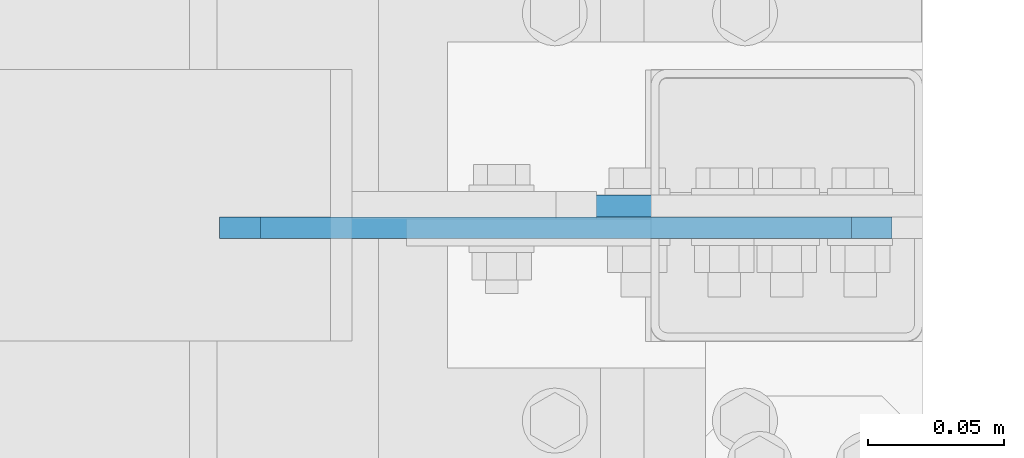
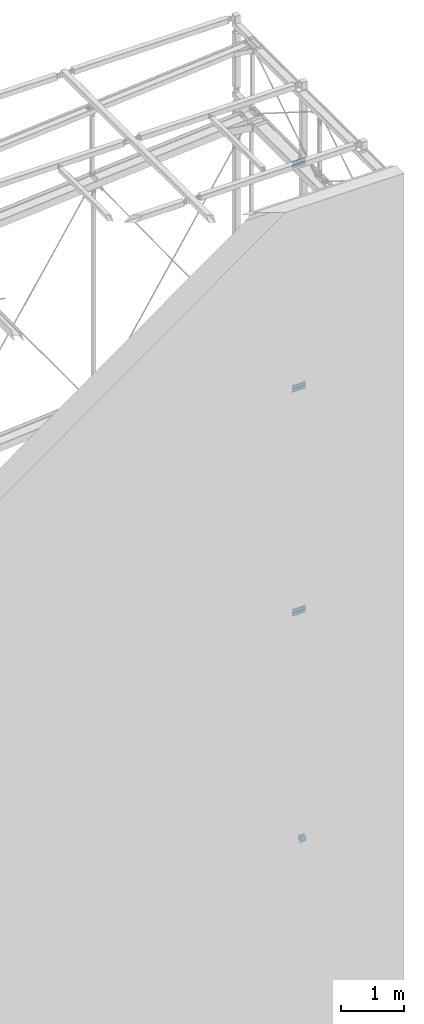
# One storey, part 177 of 271: 7 plates, 4 elements without a shape of their own.
"""IFC2X3 building model written with IfcOpenShell, lengths in millimetres."""

import ifcopenshell
import ifcopenshell.guid

model = None  # the IFC model being written
_history = None  # IfcOwnerHistory: only IFC2X3 demands one
_inside = {}  # id of a spatial element -> (the spatial element, [elements in it])
_under = {}  # id of a project, library or spatial element -> (it, [spatial elements below it])
_declared = {}  # id of a project -> (the project, [libraries it declares])
_typed = {}  # id of a type object -> (the type object, [elements of that type])
_made_of = {}  # id of a material, layer set ... -> (it, [elements and type objects made of it])


def new_model(schema):
    """Start an empty IFC model of exactly this schema.

    Asked for "IFC4X3", IfcOpenShell would pick the latest addendum, in which some entities
    have other attributes; the version numbers below select the first issue.
    IFC2X3 requires an IfcOwnerHistory on every rooted entity: one is made here for all.
    """
    global model, _history
    if schema == "IFC4X3":
        model = ifcopenshell.file(schema_version=(4, 3, 0, 0))
    else:
        model = ifcopenshell.file(schema=schema)
    _inside.clear()
    _under.clear()
    _declared.clear()
    _typed.clear()
    _made_of.clear()
    _history = None
    if model.schema == "IFC2X3":
        org = make("IfcOrganization", Name="unknown")
        user = make(
            "IfcPersonAndOrganization",
            ThePerson=make("IfcPerson", FamilyName="unknown"),
            TheOrganization=org,
        )
        app = make(
            "IfcApplication",
            ApplicationDeveloper=org,
            Version="unknown",
            ApplicationFullName="unknown",
            ApplicationIdentifier="unknown",
        )
        _history = make(
            "IfcOwnerHistory",
            OwningUser=user,
            OwningApplication=app,
            ChangeAction="ADDED",
            CreationDate=0,
        )
    return model


def make(cls, **values):
    """One entity of the class cls with the attributes given. An attribute that is None is left unset."""
    return model.create_entity(
        cls, **{name: value for name, value in values.items() if value is not None}
    )


def rooted(cls, **values):
    """An entity with a GlobalId (a new one), such as an element, a storey or a relation."""
    return make(cls, GlobalId=ifcopenshell.guid.new(), OwnerHistory=_history, **values)


def si_unit(unit_type, name, prefix=None):
    """IfcSIUnit, for example si_unit("LENGTHUNIT", "METRE", prefix="MILLI")."""
    return make("IfcSIUnit", UnitType=unit_type, Prefix=prefix, Name=name)


def assignment(units):
    """IfcUnitAssignment: the units of a project."""
    return None if units is None else make("IfcUnitAssignment", Units=units)


def point(xyz):
    """IfcCartesianPoint."""
    return None if xyz is None else make("IfcCartesianPoint", Coordinates=xyz)


def direction(xyz):
    """IfcDirection."""
    return None if xyz is None else make("IfcDirection", DirectionRatios=xyz)


def frame(location, z_axis=None, x_axis=None):
    """IfcAxis2Placement3D, a coordinate frame: its origin and axes. An axis left out is left unset."""
    return make(
        "IfcAxis2Placement3D",
        Location=point(location),
        Axis=direction(z_axis),
        RefDirection=direction(x_axis),
    )


def origin_with_axes():
    """The frame at (0, 0, 0) with the z axis (0, 0, 1) and the x axis (1, 0, 0) written out."""
    return frame((0.0, 0.0, 0.0), z_axis=(0.0, 0.0, 1.0), x_axis=(1.0, 0.0, 0.0))


def place(relative_to, where):
    """IfcLocalPlacement: puts the frame where relative to a parent placement (None: the world)."""
    return make(
        "IfcLocalPlacement", PlacementRelTo=relative_to, RelativePlacement=where
    )


def context(
    kind, dimensions, precision=None, world=None, true_north=None, identifier=None
):
    """IfcGeometricRepresentationContext, for example the 3D "Model" context."""
    return make(
        "IfcGeometricRepresentationContext",
        ContextIdentifier=identifier,
        ContextType=kind,
        CoordinateSpaceDimension=dimensions,
        Precision=precision,
        WorldCoordinateSystem=world,
        TrueNorth=true_north,
    )


def subcontext(parent, identifier, kind, view, scale=None):
    """IfcGeometricRepresentationSubContext, for example "Body" below "Model"."""
    return make(
        "IfcGeometricRepresentationSubContext",
        ContextIdentifier=identifier,
        ContextType=kind,
        ParentContext=parent,
        TargetScale=scale,
        TargetView=view,
    )


def project(units=None, contexts=None):
    """IfcProject with its units and contexts."""
    return rooted(
        "IfcProject",
        Name="project",
        RepresentationContexts=contexts,
        UnitsInContext=assignment(units),
    )


def spatial(cls, under=None, at=None, **own):
    """A site, building, storey or space (cls), placed at a placement, below another one or the project."""
    s = rooted(cls, ObjectPlacement=at, **own)
    if under is not None:
        _under.setdefault(under.id(), (under, []))[1].append(s)
    return s


def polyline(points):
    """IfcPolyline through the points."""
    return make("IfcPolyline", Points=[point(p) for p in points])


def outline(outer, holes=None, kind="AREA"):
    """IfcArbitraryClosedProfileDef: a profile drawn as a closed curve; with holes, ...WithVoids."""
    if holes is None:
        return make("IfcArbitraryClosedProfileDef", ProfileType=kind, OuterCurve=outer)
    return make(
        "IfcArbitraryProfileDefWithVoids",
        ProfileType=kind,
        OuterCurve=outer,
        InnerCurves=holes,
    )


def extrude(swept, where, along, depth):
    """IfcExtrudedAreaSolid: the profile swept, set in the frame where, extruded along a direction by depth."""
    return make(
        "IfcExtrudedAreaSolid",
        SweptArea=swept,
        Position=where,
        ExtrudedDirection=direction(along),
        Depth=depth,
    )


def shape(context_of_items, identifier, shape_type, items):
    """IfcShapeRepresentation: the items that make up one representation, for example the "Body"."""
    return make(
        "IfcShapeRepresentation",
        ContextOfItems=context_of_items,
        RepresentationIdentifier=identifier,
        RepresentationType=shape_type,
        Items=items,
    )


def material(Name=None, Category=None):
    """IfcMaterial."""
    return make("IfcMaterial", Name=Name, Category=Category)


def made_of(thing, what):
    """Note that an element or type object is made of a material, layer set ...; save() writes the relation."""
    if what is not None:
        _made_of.setdefault(what.id(), (what, []))[1].append(thing)
    return thing


def type_object(cls, material=None, **own):
    """A type object (cls), such as IfcWallType, which elements share."""
    return made_of(rooted(cls, **own), material)


def element(
    cls,
    number,
    at=None,
    inside=None,
    cuts=None,
    type_object=None,
    material=None,
    context=None,
    identifier="Body",
    shape_type=None,
    held_by="IfcProductDefinitionShape",
    body=None,
    shapes=None,
    **own,
):
    """One element of the class cls, such as IfcWall. Its Tag is "e" and its number.

    at: its placement. inside: the storey or other place that contains it. cuts: it is an
    opening in that element (IfcRelVoidsElement). A single representation is given by context,
    identifier, shape_type and body (its items); several are given by shapes. held_by: the class
    of the entity that holds the representations. save() writes the other relations.
    """
    e = rooted(cls, Tag="e%d" % number, ObjectPlacement=at, **own)
    if body is not None:
        shapes = [shape(context, identifier, shape_type, body)]
    if shapes is not None:
        e.Representation = make(held_by, Representations=shapes)
    if inside is not None:
        _inside.setdefault(inside.id(), (inside, []))[1].append(e)
    if cuts is not None:
        rooted(
            "IfcRelVoidsElement", RelatingBuildingElement=cuts, RelatedOpeningElement=e
        )
    if type_object is not None:
        _typed.setdefault(type_object.id(), (type_object, []))[1].append(e)
    return made_of(e, material)


def aggregate(whole, parts):
    """IfcRelAggregates: a whole, such as a stair, and the parts it consists of."""
    return rooted("IfcRelAggregates", RelatingObject=whole, RelatedObjects=parts)


def save(model, path):
    """Write the relations noted so far, then the file.

    IfcRelAggregates (storeys below a building ...), IfcRelContainedInSpatialStructure (elements
    in a storey), IfcRelDefinesByType, IfcRelAssociatesMaterial and IfcRelDeclares: one each for
    every whole, place, type object, material and project.
    """
    for whole, parts in _under.values():
        aggregate(whole, parts)
    for where, things in _inside.values():
        rooted(
            "IfcRelContainedInSpatialStructure",
            RelatedElements=things,
            RelatingStructure=where,
        )
    for kind, things in _typed.values():
        rooted("IfcRelDefinesByType", RelatedObjects=things, RelatingType=kind)
    for what, things in _made_of.values():
        rooted("IfcRelAssociatesMaterial", RelatedObjects=things, RelatingMaterial=what)
    for by, libraries in _declared.values():
        rooted("IfcRelDeclares", RelatingContext=by, RelatedDefinitions=libraries)
    model.write(path)


model = new_model("IFC2X3")

# Units and contexts
model_context = context("Model", 3, precision=1e-05, world=origin_with_axes())
body_context = subcontext(model_context, "Body", "Model", "MODEL_VIEW")
ifc_project = project(units=[si_unit("LENGTHUNIT", "METRE", prefix="MILLI"), si_unit("AREAUNIT", "SQUARE_METRE"), si_unit("VOLUMEUNIT", "CUBIC_METRE"), si_unit("MASSUNIT", "GRAM", prefix="KILO"), si_unit("TIMEUNIT", "SECOND"), si_unit("PLANEANGLEUNIT", "RADIAN"), si_unit("SOLIDANGLEUNIT", "STERADIAN"), si_unit("THERMODYNAMICTEMPERATUREUNIT", "DEGREE_CELSIUS"), si_unit("LUMINOUSINTENSITYUNIT", "LUMEN")], contexts=[model_context])

# Site, building, storey
site_placement = place(None, origin_with_axes())
site = spatial("IfcSite", under=ifc_project, at=site_placement, Name="Undefined", CompositionType="ELEMENT")
building_placement = place(site_placement, origin_with_axes())
building = spatial("IfcBuilding", under=site, at=building_placement, Name="Undefined", CompositionType="ELEMENT")
storey_placement = place(building_placement, origin_with_axes())
storey = spatial("IfcBuildingStorey", under=building, at=storey_placement, Name="Undefined", CompositionType="ELEMENT", Elevation=0.0)

# Assembly, plate
assembly_1_placement = place(storey_placement, origin_with_axes())
assembly_1 = element("IfcElementAssembly", 1, at=assembly_1_placement, inside=storey, AssemblyPlace="NOTDEFINED", PredefinedType="RIGID_FRAME")
ifc_material = material(Name="STEEL/S355JR")
plate_type_1 = type_object("IfcPlateType", Name="BL8*130", PredefinedType="NOTDEFINED")
plate_1_placement = place(assembly_1_placement, frame((12578.3756870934, 2799.05211980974, 5516.84999990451), z_axis=(0.0, 1.0, 0.0), x_axis=(0.0, 0.0, 1.0)))
plate_1 = element("IfcPlate", 2, at=plate_1_placement, type_object=plate_type_1, material=ifc_material, Name="BLACHA", ObjectType="BL8*130", context=body_context, shape_type="SweptSolid", body=[
    extrude(outline(polyline([(0.0, 25.0), (70.0, -8.66862137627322e-13), (150.0, -1.68398628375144e-12), (150.0, 105.0), (90.0, 105.0), (90.0, 130.0), (-3.5527136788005e-14, 130.0), (0.0, 25.0)])), frame((0.0, 0.0, -4.0), z_axis=(0.0, 0.0, 1.0), x_axis=(1.0, 0.0, 0.0)), (0.0, 0.0, 1.0), 8.0),
])
aggregate(assembly_1, [plate_1])

# Assembly, plates
assembly_2_placement = place(storey_placement, origin_with_axes())
assembly_2 = element("IfcElementAssembly", 3, at=assembly_2_placement, inside=storey, AssemblyPlace="NOTDEFINED", PredefinedType="RIGID_FRAME")
plate_type_2 = type_object("IfcPlateType", Name="BL8*64", PredefinedType="NOTDEFINED")
plate_2_placement = place(assembly_2_placement, frame((12449.5756869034, 2791.05211980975, 18576.8499999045), z_axis=(0.0, 1.0, 0.0), x_axis=(0.0, 0.0, 1.0)))
plate_2 = element("IfcPlate", 4, at=plate_2_placement, type_object=plate_type_2, material=ifc_material, Name="BLACHA", ObjectType="BL8*64", context=body_context, shape_type="SweptSolid", body=[
    extrude(outline(polyline([(0.0, 0.0), (49.1999969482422, 0.0), (64.1999969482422, 15.0), (64.1999969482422, 232.600006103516), (49.1999969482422, 247.600006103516), (0.0, 247.600006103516), (0.0, 0.0)])), frame((0.0, 0.0, -4.0), z_axis=(0.0, 0.0, 1.0), x_axis=(1.0, 0.0, 0.0)), (0.0, 0.0, 1.0), 8.0),
])
plate_3_placement = place(assembly_2_placement, frame((12449.5756869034, 2791.05211980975, 18647.649999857), z_axis=(0.0, 1.0, 0.0), x_axis=(0.0, 0.0, 1.0)))
plate_3 = element("IfcPlate", 5, at=plate_3_placement, type_object=plate_type_2, material=ifc_material, Name="BLACHA", ObjectType="BL8*64", context=body_context, shape_type="SweptSolid", body=[
    extrude(outline(polyline([(0.0, 15.0), (15.0, -1.59872115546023e-14), (64.1999969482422, -1.77635683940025e-14), (64.1999969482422, 247.600006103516), (15.0, 247.600006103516), (0.0, 232.600006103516), (0.0, 15.0)])), frame((0.0, 0.0, -4.0), z_axis=(0.0, 0.0, 1.0), x_axis=(1.0, 0.0, 0.0)), (0.0, 0.0, 1.0), 8.0),
])
aggregate(assembly_2, [plate_2, plate_3])

assembly_3_placement = place(storey_placement, origin_with_axes())
assembly_3 = element("IfcElementAssembly", 6, at=assembly_3_placement, inside=storey, AssemblyPlace="NOTDEFINED", PredefinedType="RIGID_FRAME")
plate_4_placement = place(assembly_3_placement, frame((12449.5756869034, 2791.05211980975, 14256.8499999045), z_axis=(0.0, 1.0, 0.0), x_axis=(0.0, 0.0, 1.0)))
plate_4 = element("IfcPlate", 7, at=plate_4_placement, type_object=plate_type_2, material=ifc_material, Name="BLACHA", ObjectType="BL8*64", context=body_context, shape_type="SweptSolid", body=[
    extrude(outline(polyline([(0.0, 0.0), (49.1999969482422, 0.0), (64.1999969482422, 15.0), (64.1999969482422, 232.600006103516), (49.1999969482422, 247.600006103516), (0.0, 247.600006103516), (0.0, 0.0)])), frame((0.0, 0.0, -4.0), z_axis=(0.0, 0.0, 1.0), x_axis=(1.0, 0.0, 0.0)), (0.0, 0.0, 1.0), 8.0),
])
plate_5_placement = place(assembly_3_placement, frame((12449.5756869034, 2791.05211980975, 14327.649999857), z_axis=(0.0, 1.0, 0.0), x_axis=(0.0, 0.0, 1.0)))
plate_5 = element("IfcPlate", 8, at=plate_5_placement, type_object=plate_type_2, material=ifc_material, Name="BLACHA", ObjectType="BL8*64", context=body_context, shape_type="SweptSolid", body=[
    extrude(outline(polyline([(0.0, 15.0), (15.0, -1.59872115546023e-14), (64.1999969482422, -1.77635683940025e-14), (64.1999969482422, 247.600006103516), (15.0, 247.600006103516), (0.0, 232.600006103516), (0.0, 15.0)])), frame((0.0, 0.0, -4.0), z_axis=(0.0, 0.0, 1.0), x_axis=(1.0, 0.0, 0.0)), (0.0, 0.0, 1.0), 8.0),
])
aggregate(assembly_3, [plate_4, plate_5])

assembly_4_placement = place(storey_placement, origin_with_axes())
assembly_4 = element("IfcElementAssembly", 9, at=assembly_4_placement, inside=storey, AssemblyPlace="NOTDEFINED", PredefinedType="RIGID_FRAME")
plate_6_placement = place(assembly_4_placement, frame((12449.5756869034, 2791.05211980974, 9936.84999990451), z_axis=(0.0, 1.0, 0.0), x_axis=(0.0, 0.0, 1.0)))
plate_6 = element("IfcPlate", 10, at=plate_6_placement, type_object=plate_type_2, material=ifc_material, Name="BLACHA", ObjectType="BL8*64", context=body_context, shape_type="SweptSolid", body=[
    extrude(outline(polyline([(0.0, 0.0), (49.1999969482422, 0.0), (64.1999969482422, 15.0), (64.1999969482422, 232.600006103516), (49.1999969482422, 247.600006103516), (0.0, 247.600006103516), (0.0, 0.0)])), frame((0.0, 0.0, -4.0), z_axis=(0.0, 0.0, 1.0), x_axis=(1.0, 0.0, 0.0)), (0.0, 0.0, 1.0), 8.0),
])
plate_7_placement = place(assembly_4_placement, frame((12449.5756869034, 2791.05211980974, 10007.649999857), z_axis=(0.0, 1.0, 0.0), x_axis=(0.0, 0.0, 1.0)))
plate_7 = element("IfcPlate", 11, at=plate_7_placement, type_object=plate_type_2, material=ifc_material, Name="BLACHA", ObjectType="BL8*64", context=body_context, shape_type="SweptSolid", body=[
    extrude(outline(polyline([(0.0, 15.0), (15.0, -1.59872115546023e-14), (64.1999969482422, -1.77635683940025e-14), (64.1999969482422, 247.600006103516), (15.0, 247.600006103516), (0.0, 232.600006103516), (0.0, 15.0)])), frame((0.0, 0.0, -4.0), z_axis=(0.0, 0.0, 1.0), x_axis=(1.0, 0.0, 0.0)), (0.0, 0.0, 1.0), 8.0),
])
aggregate(assembly_4, [plate_6, plate_7])

save(model, "model.ifc")
